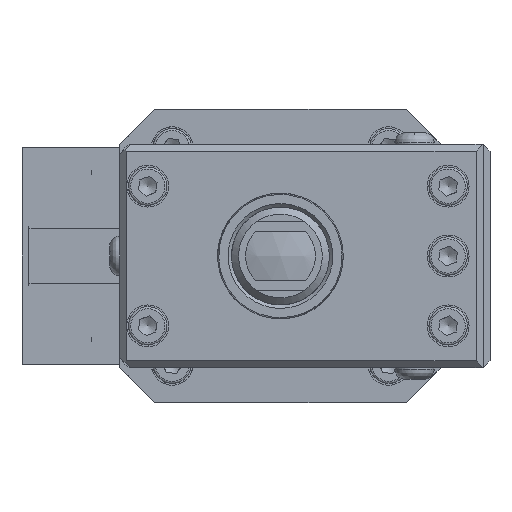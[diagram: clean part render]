
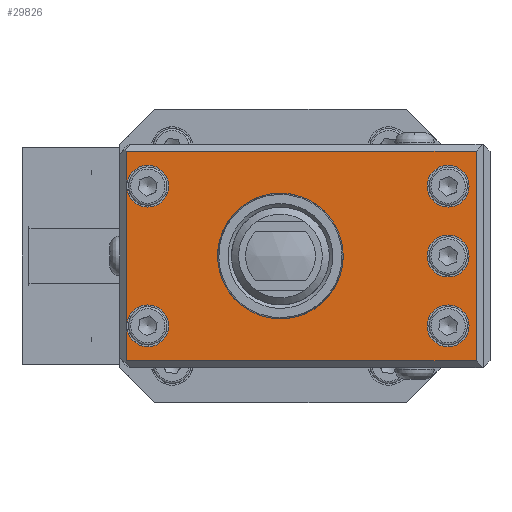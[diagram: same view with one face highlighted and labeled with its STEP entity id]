
A CAD part, left-side view. The second image highlights one B-rep face of the part: STEP entity #29826.
In plain terms, the highlighted planar face has unit normal (-1, 0, 0).
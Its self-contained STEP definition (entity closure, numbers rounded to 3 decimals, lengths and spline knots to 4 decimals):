
#2156=LINE($,#115816,#4017);
#2157=LINE($,#115818,#4018);
#2158=LINE($,#115820,#4019);
#2159=LINE($,#115822,#4020);
#2160=LINE($,#115824,#4021);
#2161=LINE($,#115825,#4022);
#4017=VECTOR($,#38538,0.7874);
#4018=VECTOR($,#38539,0.1969);
#4019=VECTOR($,#38540,1.9685);
#4020=VECTOR($,#38541,1.1811);
#4021=VECTOR($,#38542,1.9685);
#4022=VECTOR($,#38543,0.1969);
#6209=FACE_BOUND($,#9829,.T.);
#6210=FACE_BOUND($,#9830,.T.);
#6211=FACE_BOUND($,#9831,.T.);
#6212=FACE_BOUND($,#9832,.T.);
#6213=FACE_BOUND($,#9833,.T.);
#9829=EDGE_LOOP($,(#25036));
#9830=EDGE_LOOP($,(#25037,#25038,#25039,#25040,#25041,#25042,#25043,#25044));
#9831=EDGE_LOOP($,(#25045));
#9832=EDGE_LOOP($,(#25046));
#9833=EDGE_LOOP($,(#25047));
#10963=CIRCLE($,#32195,0.1181);
#10966=CIRCLE($,#32200,0.1181);
#10968=CIRCLE($,#32204,0.1181);
#10970=CIRCLE($,#32208,0.1181);
#10973=CIRCLE($,#32213,0.1181);
#10975=CIRCLE($,#32217,0.3543);
#13578=VERTEX_POINT($,#115780);
#13581=VERTEX_POINT($,#115788);
#13583=VERTEX_POINT($,#115794);
#13585=VERTEX_POINT($,#115800);
#13588=VERTEX_POINT($,#115808);
#13590=VERTEX_POINT($,#115814);
#13591=VERTEX_POINT($,#115817);
#13592=VERTEX_POINT($,#115819);
#13593=VERTEX_POINT($,#115821);
#13594=VERTEX_POINT($,#115823);
#17453=EDGE_CURVE($,#13578,#13578,#10963,.T.);
#17456=EDGE_CURVE($,#13581,#13581,#10966,.T.);
#17458=EDGE_CURVE($,#13583,#13583,#10968,.T.);
#17460=EDGE_CURVE($,#13585,#13585,#10970,.T.);
#17463=EDGE_CURVE($,#13588,#13588,#10973,.T.);
#17465=EDGE_CURVE($,#13590,#13590,#10975,.T.);
#17466=EDGE_CURVE($,#13578,#13581,#2156,.T.);
#17467=EDGE_CURVE($,#13591,#13578,#2157,.T.);
#17468=EDGE_CURVE($,#13592,#13591,#2158,.T.);
#17469=EDGE_CURVE($,#13593,#13592,#2159,.T.);
#17470=EDGE_CURVE($,#13594,#13593,#2160,.T.);
#17471=EDGE_CURVE($,#13581,#13594,#2161,.T.);
#25036=ORIENTED_EDGE($,*,*,#17465,.T.);
#25037=ORIENTED_EDGE($,*,*,#17456,.T.);
#25038=ORIENTED_EDGE($,*,*,#17466,.F.);
#25039=ORIENTED_EDGE($,*,*,#17453,.T.);
#25040=ORIENTED_EDGE($,*,*,#17467,.F.);
#25041=ORIENTED_EDGE($,*,*,#17468,.F.);
#25042=ORIENTED_EDGE($,*,*,#17469,.F.);
#25043=ORIENTED_EDGE($,*,*,#17470,.F.);
#25044=ORIENTED_EDGE($,*,*,#17471,.F.);
#25045=ORIENTED_EDGE($,*,*,#17458,.T.);
#25046=ORIENTED_EDGE($,*,*,#17460,.T.);
#25047=ORIENTED_EDGE($,*,*,#17463,.T.);
#26499=PLANE($,#32216);
#29826=ADVANCED_FACE($,(#6209,#6210,#6211,#6212,#6213),#26499,.T.);
#32195=AXIS2_PLACEMENT_3D($,#115781,#38492,#38493);
#32200=AXIS2_PLACEMENT_3D($,#115789,#38502,#38503);
#32204=AXIS2_PLACEMENT_3D($,#115795,#38510,#38511);
#32208=AXIS2_PLACEMENT_3D($,#115801,#38518,#38519);
#32213=AXIS2_PLACEMENT_3D($,#115809,#38528,#38529);
#32216=AXIS2_PLACEMENT_3D($,#115813,#38534,#38535);
#32217=AXIS2_PLACEMENT_3D($,#115815,#38536,#38537);
#38492=DIRECTION('center_axis',(1.,0.,0.));
#38493=DIRECTION('ref_axis',(0.,0.,
1.));
#38502=DIRECTION('center_axis',(1.,0.,0.));
#38503=DIRECTION('ref_axis',(0.,0.,
-1.));
#38510=DIRECTION('center_axis',(1.,0.,0.));
#38511=DIRECTION('ref_axis',(0.,0.,
1.));
#38518=DIRECTION('center_axis',(1.,0.,0.));
#38519=DIRECTION('ref_axis',(0.,0.,
1.));
#38528=DIRECTION('center_axis',(1.,0.,0.));
#38529=DIRECTION('ref_axis',(0.,0.,
1.));
#38534=DIRECTION('center_axis',(-1.,0.,0.));
#38535=DIRECTION('ref_axis',(0.,0.,1.));
#38536=DIRECTION('center_axis',(1.,0.,0.));
#38537=DIRECTION('ref_axis',(0.,0.,
-1.));
#38538=DIRECTION($,(0.,0.,1.));
#38539=DIRECTION($,(0.,0.,1.));
#38540=DIRECTION($,(0.,1.,0.));
#38541=DIRECTION($,(0.,0.,-1.));
#38542=DIRECTION($,(0.,-1.,0.));
#38543=DIRECTION($,(0.,0.,1.));
#115780=CARTESIAN_POINT('',(-3.1496,1.0039,-0.3937));
#115781=CARTESIAN_POINT('Origin',(-3.1496,0.8858,-0.3937));
#115788=CARTESIAN_POINT('',(-3.1496,1.0039,0.3937));
#115789=CARTESIAN_POINT('Origin',(-3.1496,0.8858,0.3937));
#115794=CARTESIAN_POINT('',(-3.1496,-0.8071,-0.2756));
#115795=CARTESIAN_POINT('Origin',(-3.1496,-0.8071,-0.3937));
#115800=CARTESIAN_POINT('',(-3.1496,-0.8071,0.1181));
#115801=CARTESIAN_POINT('Origin',(-3.1496,-0.8071,0.));
#115808=CARTESIAN_POINT('',(-3.1496,-0.8071,0.5118));
#115809=CARTESIAN_POINT('Origin',(-3.1496,-0.8071,0.3937));
#115813=CARTESIAN_POINT('Origin',(-3.1496,0.0197,0.));
#115814=CARTESIAN_POINT('',(-3.1496,0.1378,0.3543));
#115815=CARTESIAN_POINT('Origin',(-3.1496,0.1378,0.));
#115816=CARTESIAN_POINT($,(-3.1496,1.0039,0.315));
#115817=CARTESIAN_POINT('',(-3.1496,1.0039,-0.5906));
#115818=CARTESIAN_POINT($,(-3.1496,1.0039,0.315));
#115819=CARTESIAN_POINT('',(-3.1496,-0.9646,-0.5906));
#115820=CARTESIAN_POINT($,(-3.1496,0.5315,-0.5906));
#115821=CARTESIAN_POINT('',(-3.1496,-0.9646,0.5906));
#115822=CARTESIAN_POINT($,(-3.1496,-0.9646,-0.315));
#115823=CARTESIAN_POINT('',(-3.1496,1.0039,0.5906));
#115824=CARTESIAN_POINT($,(-3.1496,-0.4921,0.5906));
#115825=CARTESIAN_POINT($,(-3.1496,1.0039,0.315));
